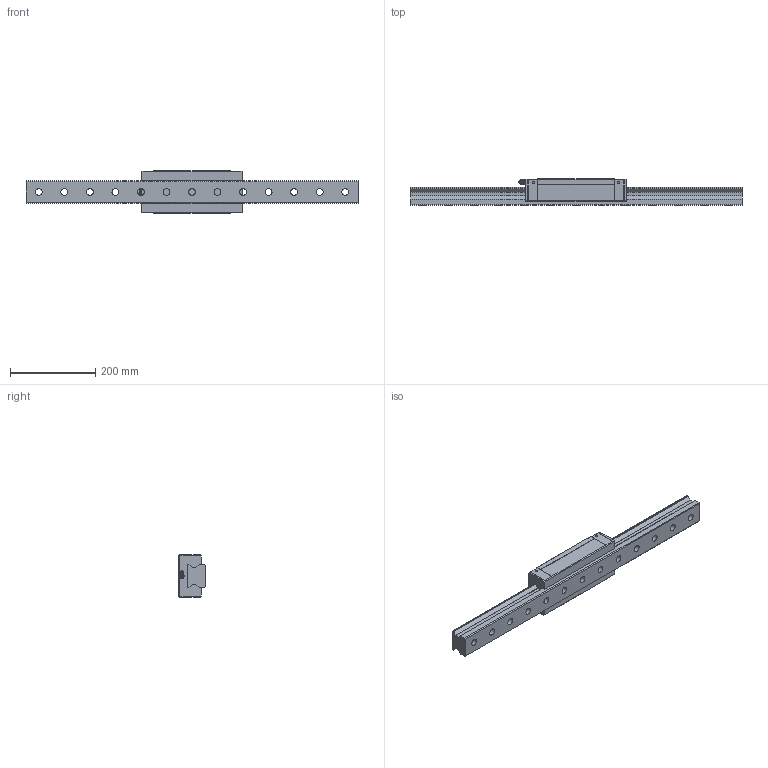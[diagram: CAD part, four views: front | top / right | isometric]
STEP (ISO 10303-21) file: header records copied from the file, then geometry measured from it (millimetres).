
FILE_DESCRIPTION(/* description */ ('STEP AP203'),/* implementation_level */ '2;1');
FILE_NAME(/* name */ 'SRN55LR1SS-780L_G30_0_B-PT18_272-5_0_0_0_1',/* time_stamp */ '2024-05-23T10:58:04+02:00',/* author */ ('License CC BY-ND 4.0'),/* organization */ ('CADENAS'),/* preprocessor_version */ 'ST-DEVELOPER v19.3',/* originating_system */ 'PARTsolutions',/* authorisation */ ' ');
FILE_SCHEMA (('CONFIG_CONTROL_DESIGN'));
Length unit declared in the file: millimetre
Products named in the file (4): SRN55LR1SS-780L_G30_0_B-PT18_272-5_0_0_0_1; SRN55LR78030 Track; SRN55LRSSB-PT1/81 Slide35-65; B-PT1/8-SRN_grease_nipple_joint
Assembly tree (3 placements, depth 2):
  SRN55LR1SS-780L_G30_0_B-PT18_272-5_0_0_0_1
    SRN55LR78030 Track
    SRN55LRSSB-PT1/81 Slide35-65
    B-PT1/8-SRN_grease_nipple_joint
Bounding box: 780 x 63 x 100 mm (x, y, z)
Volume: 2275272.4 mm3; surface area: 290873.3 mm2
Topology: 3 solids, 3 shells, 206 faces, 520 edges, 339 vertices
Faces by surface type: plane 128, cylinder 49, cone 24, torus 3, sphere 2
Full cylindrical faces by diameter (mm): 5.2 x4, 9.6 x1, 10.106 x6, 16 x13, 23 x13
Entity records: 5938 total; most frequent: CARTESIAN_POINT 1109, DIRECTION 956, ORIENTED_EDGE 878, EDGE_CURVE 439, AXIS2_PLACEMENT_3D 334, VERTEX_POINT 332, FACE_BOUND 325, EDGE_LOOP 317
